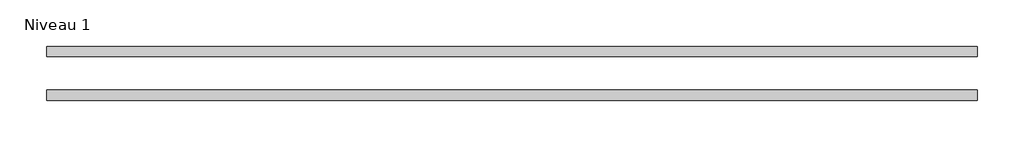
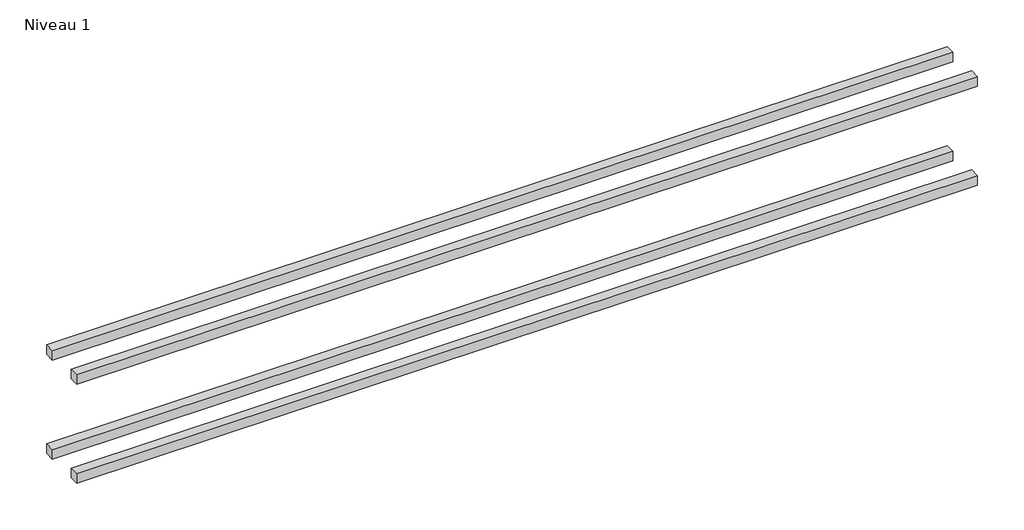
# One storey: 4 beams.
"""IFC4 building model written with IfcOpenShell, lengths in millimetres."""

import ifcopenshell
import ifcopenshell.guid

model = None  # the IFC model being written
_history = None  # IfcOwnerHistory: only IFC2X3 demands one
_inside = {}  # id of a spatial element -> (the spatial element, [elements in it])
_under = {}  # id of a project, library or spatial element -> (it, [spatial elements below it])
_declared = {}  # id of a project -> (the project, [libraries it declares])
_typed = {}  # id of a type object -> (the type object, [elements of that type])
_made_of = {}  # id of a material, layer set ... -> (it, [elements and type objects made of it])


def new_model(schema):
    """Start an empty IFC model of exactly this schema.

    Asked for "IFC4X3", IfcOpenShell would pick the latest addendum, in which some entities
    have other attributes; the version numbers below select the first issue.
    IFC2X3 requires an IfcOwnerHistory on every rooted entity: one is made here for all.
    """
    global model, _history
    if schema == "IFC4X3":
        model = ifcopenshell.file(schema_version=(4, 3, 0, 0))
    else:
        model = ifcopenshell.file(schema=schema)
    _inside.clear()
    _under.clear()
    _declared.clear()
    _typed.clear()
    _made_of.clear()
    _history = None
    if model.schema == "IFC2X3":
        org = make("IfcOrganization", Name="unknown")
        user = make(
            "IfcPersonAndOrganization",
            ThePerson=make("IfcPerson", FamilyName="unknown"),
            TheOrganization=org,
        )
        app = make(
            "IfcApplication",
            ApplicationDeveloper=org,
            Version="unknown",
            ApplicationFullName="unknown",
            ApplicationIdentifier="unknown",
        )
        _history = make(
            "IfcOwnerHistory",
            OwningUser=user,
            OwningApplication=app,
            ChangeAction="ADDED",
            CreationDate=0,
        )
    return model


def make(cls, **values):
    """One entity of the class cls with the attributes given. An attribute that is None is left unset."""
    return model.create_entity(
        cls, **{name: value for name, value in values.items() if value is not None}
    )


def rooted(cls, **values):
    """An entity with a GlobalId (a new one), such as an element, a storey or a relation."""
    return make(cls, GlobalId=ifcopenshell.guid.new(), OwnerHistory=_history, **values)


def si_unit(unit_type, name, prefix=None):
    """IfcSIUnit, for example si_unit("LENGTHUNIT", "METRE", prefix="MILLI")."""
    return make("IfcSIUnit", UnitType=unit_type, Prefix=prefix, Name=name)


def assignment(units):
    """IfcUnitAssignment: the units of a project."""
    return None if units is None else make("IfcUnitAssignment", Units=units)


def point(xyz):
    """IfcCartesianPoint."""
    return None if xyz is None else make("IfcCartesianPoint", Coordinates=xyz)


def direction(xyz):
    """IfcDirection."""
    return None if xyz is None else make("IfcDirection", DirectionRatios=xyz)


def frame(location, z_axis=None, x_axis=None):
    """IfcAxis2Placement3D, a coordinate frame: its origin and axes. An axis left out is left unset."""
    return make(
        "IfcAxis2Placement3D",
        Location=point(location),
        Axis=direction(z_axis),
        RefDirection=direction(x_axis),
    )


def origin():
    """The frame at (0, 0, 0) with its axes left unset."""
    return frame((0.0, 0.0, 0.0))


def place(relative_to, where):
    """IfcLocalPlacement: puts the frame where relative to a parent placement (None: the world)."""
    return make(
        "IfcLocalPlacement", PlacementRelTo=relative_to, RelativePlacement=where
    )


def context(
    kind, dimensions, precision=None, world=None, true_north=None, identifier=None
):
    """IfcGeometricRepresentationContext, for example the 3D "Model" context."""
    return make(
        "IfcGeometricRepresentationContext",
        ContextIdentifier=identifier,
        ContextType=kind,
        CoordinateSpaceDimension=dimensions,
        Precision=precision,
        WorldCoordinateSystem=world,
        TrueNorth=true_north,
    )


def project(units=None, contexts=None):
    """IfcProject with its units and contexts."""
    return rooted(
        "IfcProject",
        Name="project",
        RepresentationContexts=contexts,
        UnitsInContext=assignment(units),
    )


def spatial(cls, under=None, at=None, **own):
    """A site, building, storey or space (cls), placed at a placement, below another one or the project."""
    s = rooted(cls, ObjectPlacement=at, **own)
    if under is not None:
        _under.setdefault(under.id(), (under, []))[1].append(s)
    return s


def polyline(points):
    """IfcPolyline through the points."""
    return make("IfcPolyline", Points=[point(p) for p in points])


def outline(outer, holes=None, kind="AREA"):
    """IfcArbitraryClosedProfileDef: a profile drawn as a closed curve; with holes, ...WithVoids."""
    if holes is None:
        return make("IfcArbitraryClosedProfileDef", ProfileType=kind, OuterCurve=outer)
    return make(
        "IfcArbitraryProfileDefWithVoids",
        ProfileType=kind,
        OuterCurve=outer,
        InnerCurves=holes,
    )


def extrude(swept, where, along, depth):
    """IfcExtrudedAreaSolid: the profile swept, set in the frame where, extruded along a direction by depth."""
    return make(
        "IfcExtrudedAreaSolid",
        SweptArea=swept,
        Position=where,
        ExtrudedDirection=direction(along),
        Depth=depth,
    )


def shape(context_of_items, identifier, shape_type, items):
    """IfcShapeRepresentation: the items that make up one representation, for example the "Body"."""
    return make(
        "IfcShapeRepresentation",
        ContextOfItems=context_of_items,
        RepresentationIdentifier=identifier,
        RepresentationType=shape_type,
        Items=items,
    )


def source(mapping_origin, context_of_items, identifier, shape_type, items):
    """IfcRepresentationMap: a shape defined once, which mapped items show again and again."""
    return make(
        "IfcRepresentationMap",
        MappingOrigin=mapping_origin,
        MappedRepresentation=shape(context_of_items, identifier, shape_type, items),
    )


def transform(
    local_origin,
    x_axis=None,
    y_axis=None,
    z_axis=None,
    scale=None,
    scale2=None,
    scale3=None,
    uniform=True,
):
    """IfcCartesianTransformationOperator3D, or its non-uniform kind. x_axis, y_axis, z_axis: its Axis1, 2, 3."""
    if uniform:
        return make(
            "IfcCartesianTransformationOperator3D",
            Axis1=direction(x_axis),
            Axis2=direction(y_axis),
            LocalOrigin=point(local_origin),
            Scale=scale,
            Axis3=direction(z_axis),
        )
    return make(
        "IfcCartesianTransformationOperator3DnonUniform",
        Axis1=direction(x_axis),
        Axis2=direction(y_axis),
        LocalOrigin=point(local_origin),
        Scale=scale,
        Axis3=direction(z_axis),
        Scale2=scale2,
        Scale3=scale3,
    )


def mapped(mapping_source, mapping_target):
    """IfcMappedItem: shows the shape of a source again, moved by a transform."""
    return make(
        "IfcMappedItem", MappingSource=mapping_source, MappingTarget=mapping_target
    )


def made_of(thing, what):
    """Note that an element or type object is made of a material, layer set ...; save() writes the relation."""
    if what is not None:
        _made_of.setdefault(what.id(), (what, []))[1].append(thing)
    return thing


def element(
    cls,
    number,
    at=None,
    inside=None,
    cuts=None,
    type_object=None,
    material=None,
    context=None,
    identifier="Body",
    shape_type=None,
    held_by="IfcProductDefinitionShape",
    body=None,
    shapes=None,
    **own,
):
    """One element of the class cls, such as IfcWall. Its Tag is "e" and its number.

    at: its placement. inside: the storey or other place that contains it. cuts: it is an
    opening in that element (IfcRelVoidsElement). A single representation is given by context,
    identifier, shape_type and body (its items); several are given by shapes. held_by: the class
    of the entity that holds the representations. save() writes the other relations.
    """
    e = rooted(cls, Tag="e%d" % number, ObjectPlacement=at, **own)
    if body is not None:
        shapes = [shape(context, identifier, shape_type, body)]
    if shapes is not None:
        e.Representation = make(held_by, Representations=shapes)
    if inside is not None:
        _inside.setdefault(inside.id(), (inside, []))[1].append(e)
    if cuts is not None:
        rooted(
            "IfcRelVoidsElement", RelatingBuildingElement=cuts, RelatedOpeningElement=e
        )
    if type_object is not None:
        _typed.setdefault(type_object.id(), (type_object, []))[1].append(e)
    return made_of(e, material)


def aggregate(whole, parts):
    """IfcRelAggregates: a whole, such as a stair, and the parts it consists of."""
    return rooted("IfcRelAggregates", RelatingObject=whole, RelatedObjects=parts)


def save(model, path):
    """Write the relations noted so far, then the file.

    IfcRelAggregates (storeys below a building ...), IfcRelContainedInSpatialStructure (elements
    in a storey), IfcRelDefinesByType, IfcRelAssociatesMaterial and IfcRelDeclares: one each for
    every whole, place, type object, material and project.
    """
    for whole, parts in _under.values():
        aggregate(whole, parts)
    for where, things in _inside.values():
        rooted(
            "IfcRelContainedInSpatialStructure",
            RelatedElements=things,
            RelatingStructure=where,
        )
    for kind, things in _typed.values():
        rooted("IfcRelDefinesByType", RelatedObjects=things, RelatingType=kind)
    for what, things in _made_of.values():
        rooted("IfcRelAssociatesMaterial", RelatedObjects=things, RelatingMaterial=what)
    for by, libraries in _declared.values():
        rooted("IfcRelDeclares", RelatingContext=by, RelatedDefinitions=libraries)
    model.write(path)


def beam_45x45_aacaedf5(model_context):
    return source(origin(), model_context, "Body", "SweptSolid", [
        extrude(outline(polyline([(2020.0, 22.5), (2020.0, -22.5), (-2020.0, -22.5), (-2020.0, 22.5), (2020.0, 22.5)])), frame((0.0, 0.0, -22.5), z_axis=(0.0, 0.0, 1.0), x_axis=(1.0, 0.0, 0.0)), (0.0, 0.0, 1.0), 45.0),
    ])


model = new_model("IFC4")

# Units and contexts
model_context = context("Model", 3, world=origin())
ifc_project = project(units=[si_unit("LENGTHUNIT", "METRE", prefix="MILLI")], contexts=[model_context])

# Site, building, storey
site = spatial("IfcSite", under=ifc_project)
building = spatial("IfcBuilding", under=site)
storey = spatial("IfcBuildingStorey", under=building, Name="Niveau 1", Elevation=3000.0)

# Beams
placement = place(None, origin())
beam_45x45_shape = beam_45x45_aacaedf5(model_context)
element("IfcBeam", 1, ObjectType="Poutre - Bois d'oeuvre : 45x45", at=placement, inside=storey, context=model_context, shape_type="MappedRepresentation", body=[
    mapped(beam_45x45_shape, transform((-4235.3588823, -1183.2584766, 1857.5), x_axis=(1.0, 0.0, 0.0), y_axis=(0.0, 1.0, 0.0), z_axis=(0.0, 0.0, 1.0))),
])
element("IfcBeam", 2, ObjectType="Poutre - Bois d'oeuvre : 45x45", at=placement, inside=storey, context=model_context, shape_type="MappedRepresentation", body=[
    mapped(beam_45x45_shape, transform((-4235.3588823, -1183.2584766, 2327.5), x_axis=(1.0, 0.0, 0.0), y_axis=(0.0, 1.0, 0.0), z_axis=(0.0, 0.0, 1.0))),
])
element("IfcBeam", 3, ObjectType="Poutre - Bois d'oeuvre : 45x45", at=placement, inside=storey, context=model_context, shape_type="MappedRepresentation", body=[
    mapped(beam_45x45_shape, transform((-4235.3588823, -993.2584766, 1857.5), x_axis=(1.0, 0.0, 0.0), y_axis=(0.0, 1.0, 0.0), z_axis=(0.0, 0.0, 1.0))),
])
element("IfcBeam", 4, ObjectType="Poutre - Bois d'oeuvre : 45x45", at=placement, inside=storey, context=model_context, shape_type="MappedRepresentation", body=[
    mapped(beam_45x45_shape, transform((-4235.3588823, -993.2584766, 2327.5), x_axis=(1.0, 0.0, 0.0), y_axis=(0.0, 1.0, 0.0), z_axis=(0.0, 0.0, 1.0))),
])

save(model, "model.ifc")
